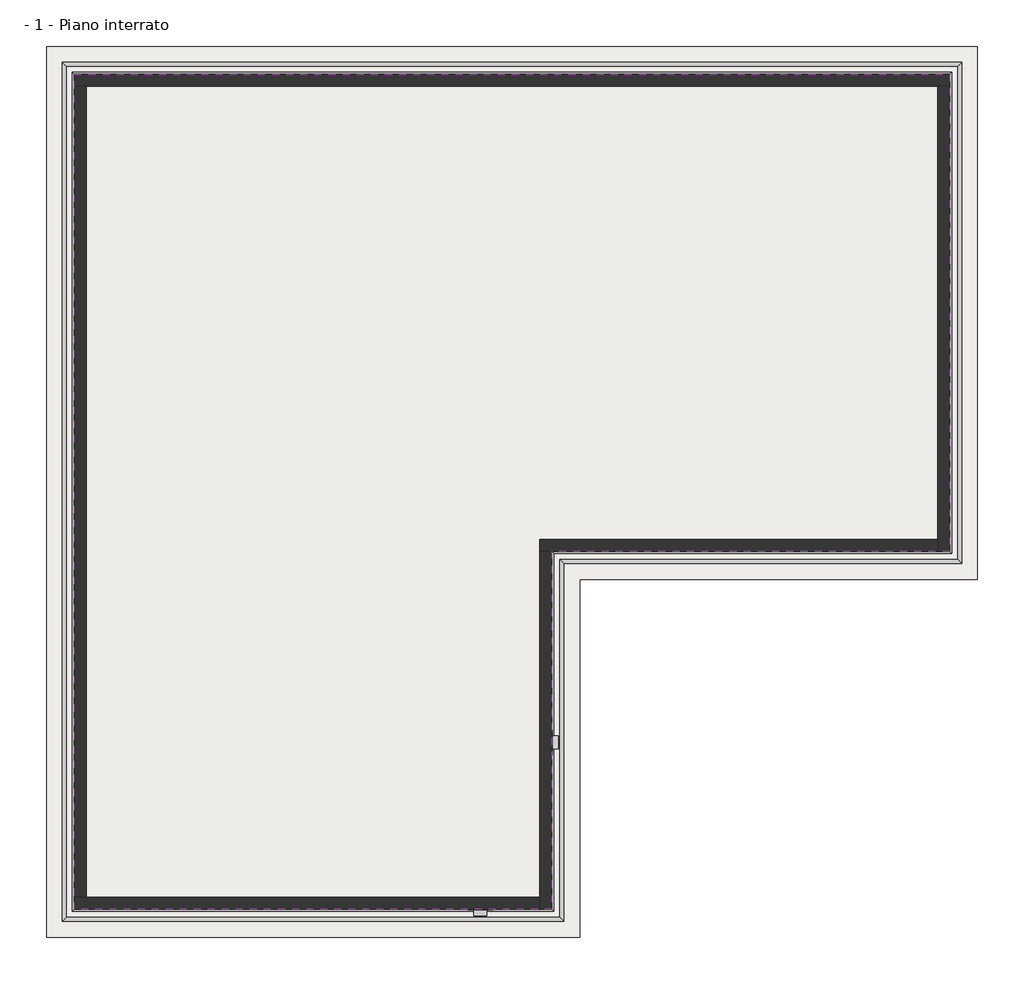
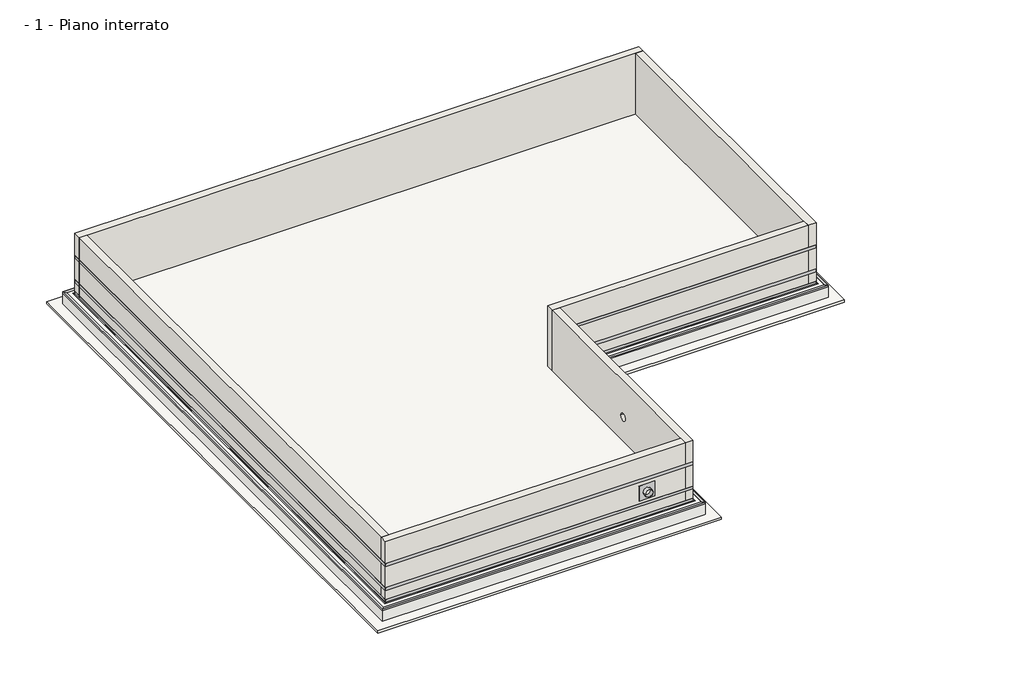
# One storey: 7 proxies, 6 walls, 2 slabs.
"""IFC4 building model written with IfcOpenShell, lengths in millimetres."""

from ifc_helpers import new_model, si_unit, frame, origin, place, context, project, spatial, polyline, circle_curve, outline, extrude, faceted_brep, transform, mapped, element, save
from ifc_brep_helpers import plane_surface, revolved_surface, advanced_brep
from components import generic_models_91e2fdae

model = new_model("IFC4")

# Units and contexts
model_context = context("Model", 3, world=origin())
ifc_project = project(units=[si_unit("LENGTHUNIT", "METRE", prefix="MILLI")], contexts=[model_context])

# Site, building, storey
site = spatial("IfcSite", under=ifc_project)
building = spatial("IfcBuilding", under=site)
storey = spatial("IfcBuildingStorey", under=building, Name="- 1 - Piano interrato", Elevation=-2500.0)

# Proxies
placement = place(None, origin())
element("IfcBuildingElementProxy", 1, Name="AMPHIBIA CORNER 90° VOLTECO", ObjectType="AMPHIBIA CORNER 90° VOLTECO", at=placement, inside=storey, context=model_context, shape_type="Brep", body=[
    faceted_brep([(14482.2184345, 11190.2450177, -2550.0), (14481.2184345, 11189.2450177, -2550.0), (-8118.7815655, 11189.2450177, -2550.0), (-8119.7815655, 11190.2450177, -2550.0), (14482.2184345, 11190.2450177, -2499.0), (-8119.7815655, 11190.2450177, -2499.0), (14381.2184345, 11089.2450177, -2499.0), (-8018.7815655, 11089.2450177, -2499.0), (14381.2184345, 11089.2450177, -2500.0), (-8018.7815655, 11089.2450177, -2500.0), (14481.2184345, 11189.2450177, -2500.0), (-8118.7815655, 11189.2450177, -2500.0), (-8118.7815655, -10410.7549823, -2550.0), (-8119.7815655, -10411.7549823, -2550.0), (-8119.7815655, -10411.7549823, -2499.0), (-8018.7815655, -10310.7549823, -2499.0), (-8018.7815655, -10310.7549823, -2500.0), (-8118.7815655, -10410.7549823, -2500.0), (4481.2184345, -10410.7549823, -2550.0), (4482.2184345, -10411.7549823, -2550.0), (4482.2184345, -10411.7549823, -2499.0), (4381.2184345, -10310.7549823, -2499.0), (4381.2184345, -10310.7549823, -2500.0), (4481.2184345, -10410.7549823, -2500.0), (4481.2184345, -1410.7549823, -2550.0), (4482.2184345, -1411.7549823, -2550.0), (4482.2184345, -1411.7549823, -2499.0), (4381.2184345, -1310.7549823, -2499.0), (4381.2184345, -1310.7549823, -2500.0), (4481.2184345, -1410.7549823, -2500.0), (14481.2184345, -1410.7549823, -2550.0), (14482.2184345, -1411.7549823, -2550.0), (14482.2184345, -1411.7549823, -2499.0), (14381.2184345, -1310.7549823, -2499.0), (14381.2184345, -1310.7549823, -2500.0), (14481.2184345, -1410.7549823, -2500.0)], [[[0, 1, 2, 3]], [[4, 0, 3, 5]], [[6, 4, 5, 7]], [[8, 6, 7, 9]], [[10, 8, 9, 11]], [[1, 10, 11, 2]], [[3, 2, 12, 13]], [[5, 3, 13, 14]], [[7, 5, 14, 15]], [[9, 7, 15, 16]], [[11, 9, 16, 17]], [[2, 11, 17, 12]], [[13, 12, 18, 19]], [[14, 13, 19, 20]], [[15, 14, 20, 21]], [[16, 15, 21, 22]], [[17, 16, 22, 23]], [[12, 17, 23, 18]], [[19, 18, 24, 25]], [[20, 19, 25, 26]], [[21, 20, 26, 27]], [[22, 21, 27, 28]], [[23, 22, 28, 29]], [[18, 23, 29, 24]], [[25, 24, 30, 31]], [[26, 25, 31, 32]], [[27, 26, 32, 33]], [[28, 27, 33, 34]], [[29, 28, 34, 35]], [[24, 29, 35, 30]], [[1, 0, 31, 30]], [[0, 4, 32, 31]], [[4, 6, 33, 32]], [[6, 8, 34, 33]], [[8, 10, 35, 34]], [[10, 1, 30, 35]]]),
])
element("IfcBuildingElementProxy", 2, Name="AKTI-VO 201 VOLTECO", ObjectType="AKTI-VO 201 VOLTECO", at=placement, inside=storey, context=model_context, shape_type="SweptSolid", body=[
    extrude(outline(polyline([(14205.1184345, 10913.1450177), (14206.1184345, 10914.1450177), (14206.1184345, -1135.6549823), (14205.1184345, -1134.6549823), (14205.1184345, 10913.1450177)])), frame((0.0, 0.0, -2500.0), z_axis=(0.0, 0.0, 1.0), x_axis=(1.0, 0.0, 0.0)), (0.0, 0.0, 1.0), 1.0),
    extrude(outline(polyline([(14205.1184345, -1134.6549823), (14206.1184345, -1135.6549823), (4206.1184345, -1135.6549823), (4205.1184345, -1134.6549823), (14205.1184345, -1134.6549823)])), frame((0.0, 0.0, -2500.0), z_axis=(0.0, 0.0, 1.0), x_axis=(1.0, 0.0, 0.0)), (0.0, 0.0, 1.0), 1.0),
    extrude(outline(polyline([(4205.1184345, -1134.6549823), (4206.1184345, -1135.6549823), (4206.1184345, -10135.6549823), (4205.1184345, -10134.6549823), (4205.1184345, -1134.6549823)])), frame((0.0, 0.0, -2500.0), z_axis=(0.0, 0.0, 1.0), x_axis=(1.0, 0.0, 0.0)), (0.0, 0.0, 1.0), 1.0),
    extrude(outline(polyline([(4205.1184345, -10134.6549823), (4206.1184345, -10135.6549823), (-7843.6815655, -10135.6549823), (-7842.6815655, -10134.6549823), (4205.1184345, -10134.6549823)])), frame((0.0, 0.0, -2500.0), z_axis=(0.0, 0.0, 1.0), x_axis=(1.0, 0.0, 0.0)), (0.0, 0.0, 1.0), 1.0),
    extrude(outline(polyline([(-7842.6815655, 10913.1450177), (-7843.6815655, 10914.1450177), (14206.1184345, 10914.1450177), (14205.1184345, 10913.1450177), (-7842.6815655, 10913.1450177)])), frame((0.0, 0.0, -2500.0), z_axis=(0.0, 0.0, 1.0), x_axis=(1.0, 0.0, 0.0)), (0.0, 0.0, 1.0), 1.0),
    extrude(outline(polyline([(-7842.6815655, -10134.6549823), (-7843.6815655, -10135.6549823), (-7843.6815655, 10914.1450177), (-7842.6815655, 10913.1450177), (-7842.6815655, -10134.6549823)])), frame((0.0, 0.0, -2500.0), z_axis=(0.0, 0.0, 1.0), x_axis=(1.0, 0.0, 0.0)), (0.0, 0.0, 1.0), 1.0),
])
element("IfcBuildingElementProxy", 3, Name="AMPHIBIA CORNER 270° VOLTECO", ObjectType="AMPHIBIA CORNER 270° VOLTECO", at=placement, inside=storey, context=model_context, shape_type="Brep", body=[
    faceted_brep([(14232.2184345, 10940.2450177, -2498.0), (14232.2184345, 10940.2450177, -2499.0), (14181.2184345, 10889.2450177, -2499.0), (14181.2184345, 10889.2450177, -2398.0), (14182.2184345, 10890.2450177, -2398.0), (14182.2184345, 10890.2450177, -2498.0), (14232.2184345, -1161.7549823, -2498.0), (14182.2184345, -1111.7549823, -2498.0), (14182.2184345, -1111.7549823, -2398.0), (14181.2184345, -1110.7549823, -2398.0), (14181.2184345, -1110.7549823, -2499.0), (14232.2184345, -1161.7549823, -2499.0)], [[[0, 1, 2, 3, 4, 5]], [[6, 7, 8, 9, 10, 11]], [[1, 0, 6, 11]], [[2, 1, 11, 10]], [[3, 2, 10, 9]], [[4, 3, 9, 8]], [[5, 4, 8, 7]], [[0, 5, 7, 6]]]),
    faceted_brep([(-7869.7815655, 10940.2450177, -2498.0), (-7869.7815655, 10940.2450177, -2499.0), (-7818.7815655, 10889.2450177, -2499.0), (-7818.7815655, 10889.2450177, -2398.0), (-7819.7815655, 10890.2450177, -2398.0), (-7819.7815655, 10890.2450177, -2498.0), (14232.2184345, 10940.2450177, -2498.0), (14182.2184345, 10890.2450177, -2498.0), (14182.2184345, 10890.2450177, -2398.0), (14181.2184345, 10889.2450177, -2398.0), (14181.2184345, 10889.2450177, -2499.0), (14232.2184345, 10940.2450177, -2499.0)], [[[0, 1, 2, 3, 4, 5]], [[6, 7, 8, 9, 10, 11]], [[1, 0, 6, 11]], [[2, 1, 11, 10]], [[3, 2, 10, 9]], [[4, 3, 9, 8]], [[5, 4, 8, 7]], [[0, 5, 7, 6]]]),
    faceted_brep([(-7869.7815655, -10161.7549823, -2498.0), (-7869.7815655, -10161.7549823, -2499.0), (-7818.7815655, -10110.7549823, -2499.0), (-7818.7815655, -10110.7549823, -2398.0), (-7819.7815655, -10111.7549823, -2398.0), (-7819.7815655, -10111.7549823, -2498.0), (-7869.7815655, 10940.2450177, -2498.0), (-7819.7815655, 10890.2450177, -2498.0), (-7819.7815655, 10890.2450177, -2398.0), (-7818.7815655, 10889.2450177, -2398.0), (-7818.7815655, 10889.2450177, -2499.0), (-7869.7815655, 10940.2450177, -2499.0)], [[[0, 1, 2, 3, 4, 5]], [[6, 7, 8, 9, 10, 11]], [[1, 0, 6, 11]], [[2, 1, 11, 10]], [[3, 2, 10, 9]], [[4, 3, 9, 8]], [[5, 4, 8, 7]], [[0, 5, 7, 6]]]),
    faceted_brep([(4232.2184345, -10161.7549823, -2498.0), (4232.2184345, -10161.7549823, -2499.0), (4181.2184345, -10110.7549823, -2499.0), (4181.2184345, -10110.7549823, -2398.0), (4182.2184345, -10111.7549823, -2398.0), (4182.2184345, -10111.7549823, -2498.0), (-7869.7815655, -10161.7549823, -2498.0), (-7819.7815655, -10111.7549823, -2498.0), (-7819.7815655, -10111.7549823, -2398.0), (-7818.7815655, -10110.7549823, -2398.0), (-7818.7815655, -10110.7549823, -2499.0), (-7869.7815655, -10161.7549823, -2499.0)], [[[0, 1, 2, 3, 4, 5]], [[6, 7, 8, 9, 10, 11]], [[1, 0, 6, 11]], [[2, 1, 11, 10]], [[3, 2, 10, 9]], [[4, 3, 9, 8]], [[5, 4, 8, 7]], [[0, 5, 7, 6]]]),
    faceted_brep([(4232.2184345, -1161.7549823, -2498.0), (4232.2184345, -1161.7549823, -2499.0), (4181.2184345, -1110.7549823, -2499.0), (4181.2184345, -1110.7549823, -2398.0), (4182.2184345, -1111.7549823, -2398.0), (4182.2184345, -1111.7549823, -2498.0), (4232.2184345, -10161.7549823, -2498.0), (4182.2184345, -10111.7549823, -2498.0), (4182.2184345, -10111.7549823, -2398.0), (4181.2184345, -10110.7549823, -2398.0), (4181.2184345, -10110.7549823, -2499.0), (4232.2184345, -10161.7549823, -2499.0)], [[[0, 1, 2, 3, 4, 5]], [[6, 7, 8, 9, 10, 11]], [[1, 0, 6, 11]], [[2, 1, 11, 10]], [[3, 2, 10, 9]], [[4, 3, 9, 8]], [[5, 4, 8, 7]], [[0, 5, 7, 6]]]),
    faceted_brep([(14232.2184345, -1161.7549823, -2498.0), (14232.2184345, -1161.7549823, -2499.0), (14181.2184345, -1110.7549823, -2499.0), (14181.2184345, -1110.7549823, -2398.0), (14182.2184345, -1111.7549823, -2398.0), (14182.2184345, -1111.7549823, -2498.0), (4232.2184345, -1161.7549823, -2498.0), (4182.2184345, -1111.7549823, -2498.0), (4182.2184345, -1111.7549823, -2398.0), (4181.2184345, -1110.7549823, -2398.0), (4181.2184345, -1110.7549823, -2499.0), (4232.2184345, -1161.7549823, -2499.0)], [[[0, 1, 2, 3, 4, 5]], [[6, 7, 8, 9, 10, 11]], [[1, 0, 6, 11]], [[2, 1, 11, 10]], [[3, 2, 10, 9]], [[4, 3, 9, 8]], [[5, 4, 8, 7]], [[0, 5, 7, 6]]]),
])
element("IfcBuildingElementProxy", 4, Name="AMPHIBIA 3000 STRIP", ObjectType="AMPHIBIA 3000 STRIP", at=placement, inside=storey, context=model_context, shape_type="SweptSolid", body=[
    extrude(outline(polyline([(4181.2184345, -10110.7549823), (4182.2184345, -10111.7549823), (-7819.7815655, -10111.7549823), (-7818.7815655, -10110.7549823), (4181.2184345, -10110.7549823)])), frame((0.0, 0.0, -1020.0), z_axis=(0.0, 0.0, 1.0), x_axis=(1.0, 0.0, 0.0)), (0.0, 0.0, 1.0), 120.0),
    extrude(outline(polyline([(4181.2184345, -1110.7549823), (4182.2184345, -1111.7549823), (4182.2184345, -10111.7549823), (4181.2184345, -10110.7549823), (4181.2184345, -1110.7549823)])), frame((0.0, 0.0, -1020.0), z_axis=(0.0, 0.0, 1.0), x_axis=(1.0, 0.0, 0.0)), (0.0, 0.0, 1.0), 120.0),
    extrude(outline(polyline([(14181.2184345, -1110.7549823), (14182.2184345, -1111.7549823), (4182.2184345, -1111.7549823), (4181.2184345, -1110.7549823), (14181.2184345, -1110.7549823)])), frame((0.0, 0.0, -1020.0), z_axis=(0.0, 0.0, 1.0), x_axis=(1.0, 0.0, 0.0)), (0.0, 0.0, 1.0), 120.0),
    extrude(outline(polyline([(14181.2184345, 10889.2450177), (14182.2184345, 10890.2450177), (14182.2184345, -1111.7549823), (14181.2184345, -1110.7549823), (14181.2184345, 10889.2450177)])), frame((0.0, 0.0, -1020.0), z_axis=(0.0, 0.0, 1.0), x_axis=(1.0, 0.0, 0.0)), (0.0, 0.0, 1.0), 120.0),
    extrude(outline(polyline([(-7818.7815655, 10889.2450177), (-7819.7815655, 10890.2450177), (14182.2184345, 10890.2450177), (14181.2184345, 10889.2450177), (-7818.7815655, 10889.2450177)])), frame((0.0, 0.0, -1020.0), z_axis=(0.0, 0.0, 1.0), x_axis=(1.0, 0.0, 0.0)), (0.0, 0.0, 1.0), 120.0),
    extrude(outline(polyline([(-7818.7815655, -10110.7549823), (-7819.7815655, -10111.7549823), (-7819.7815655, 10890.2450177), (-7818.7815655, 10889.2450177), (-7818.7815655, -10110.7549823)])), frame((0.0, 0.0, -1020.0), z_axis=(0.0, 0.0, 1.0), x_axis=(1.0, 0.0, 0.0)), (0.0, 0.0, 1.0), 120.0),
])
element("IfcBuildingElementProxy", 5, Name="AMPHIBIA 3000 STRIP", ObjectType="AMPHIBIA 3000 STRIP", at=placement, inside=storey, context=model_context, shape_type="SweptSolid", body=[
    extrude(outline(polyline([(4181.2184345, -10110.7549823), (4182.2184345, -10111.7549823), (-7819.7815655, -10111.7549823), (-7818.7815655, -10110.7549823), (4181.2184345, -10110.7549823)])), frame((0.0, 0.0, -2020.0), z_axis=(0.0, 0.0, 1.0), x_axis=(1.0, 0.0, 0.0)), (0.0, 0.0, 1.0), 120.0),
    extrude(outline(polyline([(4181.2184345, -1110.7549823), (4182.2184345, -1111.7549823), (4182.2184345, -10111.7549823), (4181.2184345, -10110.7549823), (4181.2184345, -1110.7549823)])), frame((0.0, 0.0, -2020.0), z_axis=(0.0, 0.0, 1.0), x_axis=(1.0, 0.0, 0.0)), (0.0, 0.0, 1.0), 120.0),
    extrude(outline(polyline([(14181.2184345, -1110.7549823), (14182.2184345, -1111.7549823), (4182.2184345, -1111.7549823), (4181.2184345, -1110.7549823), (14181.2184345, -1110.7549823)])), frame((0.0, 0.0, -2020.0), z_axis=(0.0, 0.0, 1.0), x_axis=(1.0, 0.0, 0.0)), (0.0, 0.0, 1.0), 120.0),
    extrude(outline(polyline([(14181.2184345, 10889.2450177), (14182.2184345, 10890.2450177), (14182.2184345, -1111.7549823), (14181.2184345, -1110.7549823), (14181.2184345, 10889.2450177)])), frame((0.0, 0.0, -2020.0), z_axis=(0.0, 0.0, 1.0), x_axis=(1.0, 0.0, 0.0)), (0.0, 0.0, 1.0), 120.0),
    extrude(outline(polyline([(-7818.7815655, 10889.2450177), (-7819.7815655, 10890.2450177), (14182.2184345, 10890.2450177), (14181.2184345, 10889.2450177), (-7818.7815655, 10889.2450177)])), frame((0.0, 0.0, -2020.0), z_axis=(0.0, 0.0, 1.0), x_axis=(1.0, 0.0, 0.0)), (0.0, 0.0, 1.0), 120.0),
    extrude(outline(polyline([(-7818.7815655, -10110.7549823), (-7819.7815655, -10111.7549823), (-7819.7815655, 10890.2450177), (-7818.7815655, 10889.2450177), (-7818.7815655, -10110.7549823)])), frame((0.0, 0.0, -2020.0), z_axis=(0.0, 0.0, 1.0), x_axis=(1.0, 0.0, 0.0)), (0.0, 0.0, 1.0), 120.0),
])
generic_models_shape = generic_models_91e2fdae(model_context)
element("IfcBuildingElementProxy", 6, Name="ITA-VOLTECO Amphibia Tubo : ITA-VOLTECO Amphibia Tubo", ObjectType="ITA-VOLTECO Amphibia Tubo : ITA-VOLTECO Amphibia Tubo", at=placement, inside=storey, context=model_context, shape_type="MappedRepresentation", body=[
    mapped(generic_models_shape, transform((4181.2184345, -5910.7549823, -1500.3520841), x_axis=(0.0, 1.0, 0.0), y_axis=(0.0, 0.0, 1.0), z_axis=(1.0, 0.0, 0.0))),
])
element("IfcBuildingElementProxy", 7, Name="ITA-VOLTECO Amphibia Tubo : ITA-VOLTECO Amphibia Tubo", ObjectType="ITA-VOLTECO Amphibia Tubo : ITA-VOLTECO Amphibia Tubo", at=placement, inside=storey, context=model_context, shape_type="MappedRepresentation", body=[
    mapped(generic_models_shape, transform((2381.2184345, -10110.7549823, -1471.2981482), x_axis=(1.0, 0.0, 0.0), y_axis=(0.0, 0.0, 1.0), z_axis=(0.0, -1.0, 0.0))),
])

# Slabs
element("IfcSlab", 8, ObjectType="Magrone - 10 cm", at=placement, inside=storey, context=model_context, shape_type="SweptSolid", body=[
    extrude(outline(polyline([(14881.2184345, 11589.2450177), (14881.2184345, -1810.7549823), (4881.2184345, -1810.7549823), (4881.2184345, -10810.7549823), (-8518.7815655, -10810.7549823), (-8518.7815655, 11589.2450177), (14881.2184345, 11589.2450177)])), frame((0.0, 0.0, -3100.0), z_axis=(0.0, 0.0, 1.0), x_axis=(1.0, 0.0, 0.0)), (0.0, 0.0, 1.0), 100.0),
])
element("IfcSlab", 9, ObjectType="Platea - 50 cm", at=placement, inside=storey, context=model_context, shape_type="Brep", body=[
    faceted_brep([(14481.2184345, 11189.2450177, -3000.0), (14481.2184345, -1410.7549823, -3000.0), (4481.2184345, -1410.7549823, -3000.0), (4481.2184345, -10410.7549823, -3000.0), (-8118.7815655, -10410.7549823, -3000.0), (-8118.7815655, 11189.2450177, -3000.0), (14481.2184345, 11189.2450177, -2500.0), (-8118.7815655, 11189.2450177, -2500.0), (-8118.7815655, -10410.7549823, -2500.0), (4481.2184345, -10410.7549823, -2500.0), (4481.2184345, -1410.7549823, -2500.0), (14481.2184345, -1410.7549823, -2500.0), (14481.2184345, 11189.2450177, -2550.0), (14481.2184345, -1410.7549823, -2550.0), (4481.2184345, -1410.7549823, -2550.0), (4481.2184345, -10410.7549823, -2550.0), (-8118.7815655, -10410.7549823, -2550.0), (-8118.7815655, 11189.2450177, -2550.0)], [[[0, 1, 2, 3, 4, 5]], [[6, 7, 8, 9, 10, 11]], [[1, 0, 12, 6, 11, 13]], [[2, 1, 13, 11, 10, 14]], [[3, 2, 14, 10, 9, 15]], [[4, 3, 15, 9, 8, 16]], [[5, 4, 16, 8, 7, 17]], [[0, 5, 17, 7, 6, 12]]]),
])

# Walls
element("IfcWall", 10, ObjectType="Fondazione - 30 cm", at=placement, inside=storey, context=model_context, shape_type="Brep", body=[
    faceted_brep([(14181.2184345, 10589.2450177, 0.0), (13881.2184345, 10589.2450177, 0.0), (-7518.7815655, 10589.2450177, 0.0), (-7818.7815655, 10589.2450177, 0.0), (-7818.7815655, 10589.2450177, -900.0), (-7818.7815655, 10589.2450177, -1020.0), (-7818.7815655, 10589.2450177, -1900.0), (-7818.7815655, 10589.2450177, -2020.0), (-7818.7815655, 10589.2450177, -2398.0), (-7818.7815655, 10589.2450177, -2499.0), (-7818.7815655, 10589.2450177, -2500.0), (-7518.7815655, 10589.2450177, -2500.0), (13881.2184345, 10589.2450177, -2500.0), (14181.2184345, 10589.2450177, -2500.0), (14181.2184345, 10589.2450177, -2499.0), (14181.2184345, 10589.2450177, -2398.0), (14181.2184345, 10589.2450177, -2020.0), (14181.2184345, 10589.2450177, -1900.0), (14181.2184345, 10589.2450177, -1020.0), (14181.2184345, 10589.2450177, -900.0), (-7818.7815655, 10889.2450177, 0.0), (14181.2184345, 10889.2450177, 0.0), (14181.2184345, 10889.2450177, -900.0), (14181.2184345, 10889.2450177, -1020.0), (14181.2184345, 10889.2450177, -1900.0), (14181.2184345, 10889.2450177, -2020.0), (14181.2184345, 10889.2450177, -2398.0), (14181.2184345, 10889.2450177, -2499.0), (14181.2184345, 10889.2450177, -2500.0), (-7818.7815655, 10889.2450177, -2500.0), (-7818.7815655, 10889.2450177, -2499.0), (-7818.7815655, 10889.2450177, -2398.0), (-7818.7815655, 10889.2450177, -2020.0), (-7818.7815655, 10889.2450177, -1900.0), (-7818.7815655, 10889.2450177, -1020.0), (-7818.7815655, 10889.2450177, -900.0)], [[[0, 1, 2, 3, 4, 5, 6, 7, 8, 9, 10, 11, 12, 13, 14, 15, 16, 17, 18, 19]], [[20, 21, 22, 23, 24, 25, 26, 27, 28, 29, 30, 31, 32, 33, 34, 35]], [[3, 2, 1, 0, 21, 20]], [[21, 0, 19, 18, 17, 16, 15, 14, 13, 28, 27, 26, 25, 24, 23, 22]], [[3, 20, 35, 34, 33, 32, 31, 30, 29, 10, 9, 8, 7, 6, 5, 4]], [[13, 12, 11, 10, 29, 28]]]),
])
element("IfcWall", 11, ObjectType="Fondazione - 30 cm", at=placement, inside=storey, context=model_context, shape_type="Brep", body=[
    faceted_brep([(13881.2184345, -1110.7549823, 0.0), (13881.2184345, -810.7549823, 0.0), (13881.2184345, 10589.2450177, 0.0), (13881.2184345, 10589.2450177, -2500.0), (13881.2184345, -810.7549823, -2500.0), (13881.2184345, -1110.7549823, -2500.0), (13881.2184345, -1110.7549823, -2499.0), (13881.2184345, -1110.7549823, -2398.0), (13881.2184345, -1110.7549823, -2020.0), (13881.2184345, -1110.7549823, -1900.0), (13881.2184345, -1110.7549823, -1020.0), (13881.2184345, -1110.7549823, -900.0), (14181.2184345, 10589.2450177, 0.0), (14181.2184345, -1110.7549823, 0.0), (14181.2184345, -1110.7549823, -900.0), (14181.2184345, -1110.7549823, -1020.0), (14181.2184345, -1110.7549823, -1900.0), (14181.2184345, -1110.7549823, -2020.0), (14181.2184345, -1110.7549823, -2398.0), (14181.2184345, -1110.7549823, -2499.0), (14181.2184345, -1110.7549823, -2500.0), (14181.2184345, 10589.2450177, -2500.0), (14181.2184345, 10589.2450177, -2499.0), (14181.2184345, 10589.2450177, -2398.0), (14181.2184345, 10589.2450177, -2020.0), (14181.2184345, 10589.2450177, -1900.0), (14181.2184345, 10589.2450177, -1020.0), (14181.2184345, 10589.2450177, -900.0)], [[[0, 1, 2, 3, 4, 5, 6, 7, 8, 9, 10, 11]], [[12, 13, 14, 15, 16, 17, 18, 19, 20, 21, 22, 23, 24, 25, 26, 27]], [[2, 1, 0, 13, 12]], [[3, 2, 12, 27, 26, 25, 24, 23, 22, 21]], [[13, 0, 11, 10, 9, 8, 7, 6, 5, 20, 19, 18, 17, 16, 15, 14]], [[5, 4, 3, 21, 20]]]),
])
element("IfcWall", 12, ObjectType="Fondazione - 30 cm", at=placement, inside=storey, context=model_context, shape_type="Brep", body=[
    faceted_brep([(3881.2184345, -810.7549823, 0.0), (13881.2184345, -810.7549823, 0.0), (13881.2184345, -810.7549823, -2500.0), (3881.2184345, -810.7549823, -2500.0), (13881.2184345, -1110.7549823, 0.0), (4181.2184345, -1110.7549823, 0.0), (3881.2184345, -1110.7549823, 0.0), (3881.2184345, -1110.7549823, -2500.0), (4181.2184345, -1110.7549823, -2500.0), (13881.2184345, -1110.7549823, -2500.0), (13881.2184345, -1110.7549823, -2499.0), (13881.2184345, -1110.7549823, -2398.0), (13881.2184345, -1110.7549823, -1620.0), (13881.2184345, -1110.7549823, -1500.0), (13881.2184345, -1110.7549823, -620.0), (13881.2184345, -1110.7549823, -500.0)], [[[0, 1, 2, 3]], [[4, 5, 6, 7, 8, 9, 10, 11, 12, 13, 14, 15]], [[1, 0, 6, 5, 4]], [[2, 1, 4, 15, 14, 13, 12, 11, 10, 9]], [[0, 3, 7, 6]], [[3, 2, 9, 8, 7]]]),
])
element("IfcWall", 13, ObjectType="Fondazione - 30 cm", at=placement, inside=storey, context=model_context, shape_type="AdvancedBrep", body=[
    advanced_brep(
    [(3881.2184345, -10110.7549823, 0.0), (3881.2184345, -9810.7549823, 0.0), (3881.2184345, -1110.7549823, 0.0), (3881.2184345, -1110.7549823, -2500.0), (3881.2184345, -9810.7549823, -2500.0), (3881.2184345, -10110.7549823, -2500.0), (3881.2184345, -10110.7549823, -2499.0), (3881.2184345, -10110.7549823, -2398.0), (3881.2184345, -10110.7549823, -2020.0), (3881.2184345, -10110.7549823, -1900.0), (3881.2184345, -10110.7549823, -1020.0), (3881.2184345, -10110.7549823, -900.0), (3881.2184345, -6060.7549823, -1500.3520841), (3881.2184345, -5760.7549823, -1500.3520841), (4181.2184345, -1110.7549823, 0.0), (4181.2184345, -10110.7549823, 0.0), (4181.2184345, -10110.7549823, -900.0), (4181.2184345, -10110.7549823, -1020.0), (4181.2184345, -10110.7549823, -1900.0), (4181.2184345, -10110.7549823, -2020.0), (4181.2184345, -10110.7549823, -2398.0), (4181.2184345, -10110.7549823, -2499.0), (4181.2184345, -10110.7549823, -2500.0), (4181.2184345, -1110.7549823, -2500.0), (4181.2184345, -1110.7549823, -2499.0), (4181.2184345, -1110.7549823, -2398.0), (4181.2184345, -1110.7549823, -2020.0), (4181.2184345, -1110.7549823, -1900.0), (4181.2184345, -1110.7549823, -1020.0), (4181.2184345, -1110.7549823, -900.0), (4181.2184345, -5760.7549823, -1500.3520841), (4181.2184345, -6060.7549823, -1500.3520841)],
    [
        (0, 1),
        (1, 2),
        (2, 3),
        (3, 4),
        (4, 5),
        (5, 6),
        (6, 7),
        (7, 8),
        (8, 9),
        (9, 10),
        (10, 11),
        (11, 0),
        (12, 13, circle_curve(frame((3881.2184345, -5910.7549823, -1500.3520841), z_axis=(1.0, 0.0, 0.0), x_axis=(0.0, 1.0, 0.0)), 150.0)),
        (13, 12, circle_curve(frame((3881.2184345, -5910.7549823, -1500.3520841), z_axis=(1.0, 0.0, 0.0), x_axis=(0.0, 1.0, 0.0)), 150.0)),
        (14, 15),
        (15, 16),
        (16, 17),
        (17, 18),
        (18, 19),
        (19, 20),
        (20, 21),
        (21, 22),
        (22, 23),
        (23, 24),
        (24, 25),
        (25, 26),
        (26, 27),
        (27, 28),
        (28, 29),
        (29, 14),
        (30, 31, circle_curve(frame((4181.2184345, -5910.7549823, -1500.3520841), z_axis=(-1.0, 0.0, 0.0), x_axis=(0.0, 1.0, 0.0)), 150.0)),
        (31, 30, circle_curve(frame((4181.2184345, -5910.7549823, -1500.3520841), z_axis=(-1.0, 0.0, 0.0), x_axis=(0.0, 1.0, 0.0)), 150.0)),
        (0, 15),
        (14, 2),
        (23, 3),
        (5, 22),
        (12, 31),
        (30, 13),
    ],
    [
        plane_surface(frame((3881.2184345, -1110.7549823, -2500.0), z_axis=(-1.0, 0.0, 0.0), x_axis=(0.0, -1.0, 0.0))),
        plane_surface(frame((4181.2184345, -1110.7549823, -2500.0), z_axis=(1.0, 0.0, 0.0), x_axis=(0.0, 1.0, 0.0))),
        plane_surface(frame((3881.2184345, -9960.7549823, 0.0), z_axis=(0.0, 0.0, 1.0), x_axis=(1.0, 0.0, 0.0))),
        plane_surface(frame((14181.2184345, -1110.7549823, -2500.0), z_axis=(0.0, 1.0, 0.0), x_axis=(1.0, 0.0, 0.0))),
        plane_surface(frame((4181.2184345, -10110.7549823, -2500.0), z_axis=(0.0, -1.0, 0.0), x_axis=(1.0, 0.0, 0.0))),
        plane_surface(frame((14481.2184345, 10889.2450177, -2500.0), z_axis=(0.0, 0.0, -1.0), x_axis=(0.0, 1.0, 0.0))),
        revolved_surface(polyline([(4181.2184345, -5760.7549823, -1500.3520841), (3881.2184345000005, -5760.7549823, -1500.3520841)]), (1588.8547464, -5910.7549823, -1500.3520841), (1.0, 0.0, 0.0)),
    ],
    [
        (0, [[1, 2, 3, 4, 5, 6, 7, 8, 9, 10, 11, 12], [13, 14]]),
        (1, [[15, 16, 17, 18, 19, 20, 21, 22, 23, 24, 25, 26, 27, 28, 29, 30], [31, 32]]),
        (2, [[-2, -1, 33, -15, 34]]),
        (3, [[-3, -34, -30, -29, -28, -27, -26, -25, -24, 35]]),
        (4, [[-33, -12, -11, -10, -9, -8, -7, -6, 36, -22, -21, -20, -19, -18, -17, -16]]),
        (5, [[-5, -4, -35, -23, -36]]),
        (6, [[37, -31, 38, -13]]),
        (6, [[-37, -14, -38, -32]]),
    ],
),
])
element("IfcWall", 14, ObjectType="Fondazione - 30 cm", at=placement, inside=storey, context=model_context, shape_type="AdvancedBrep", body=[
    advanced_brep(
    [(-7818.7815655, -9810.7549823, 0.0), (-7518.7815655, -9810.7549823, 0.0), (3881.2184345, -9810.7549823, 0.0), (3881.2184345, -9810.7549823, -2500.0), (-7518.7815655, -9810.7549823, -2500.0), (-7818.7815655, -9810.7549823, -2500.0), (-7818.7815655, -9810.7549823, -2499.0), (-7818.7815655, -9810.7549823, -2398.0), (-7818.7815655, -9810.7549823, -2020.0), (-7818.7815655, -9810.7549823, -1900.0), (-7818.7815655, -9810.7549823, -1020.0), (-7818.7815655, -9810.7549823, -900.0), (2231.2184345, -9810.7549823, -1471.2981482), (2531.2184345, -9810.7549823, -1471.2981482), (3881.2184345, -10110.7549823, 0.0), (-7818.7815655, -10110.7549823, 0.0), (-7818.7815655, -10110.7549823, -900.0), (-7818.7815655, -10110.7549823, -1020.0), (-7818.7815655, -10110.7549823, -1900.0), (-7818.7815655, -10110.7549823, -2020.0), (-7818.7815655, -10110.7549823, -2398.0), (-7818.7815655, -10110.7549823, -2499.0), (-7818.7815655, -10110.7549823, -2500.0), (3881.2184345, -10110.7549823, -2500.0), (3881.2184345, -10110.7549823, -2499.0), (3881.2184345, -10110.7549823, -2398.0), (3881.2184345, -10110.7549823, -2020.0), (3881.2184345, -10110.7549823, -1900.0), (3881.2184345, -10110.7549823, -1020.0), (3881.2184345, -10110.7549823, -900.0), (2531.2184345, -10110.7549823, -1471.2981482), (2231.2184345, -10110.7549823, -1471.2981482)],
    [
        (0, 1),
        (1, 2),
        (2, 3),
        (3, 4),
        (4, 5),
        (5, 6),
        (6, 7),
        (7, 8),
        (8, 9),
        (9, 10),
        (10, 11),
        (11, 0),
        (12, 13, circle_curve(frame((2381.2184345, -9810.7549823, -1471.2981482), z_axis=(0.0, -1.0, 0.0), x_axis=(1.0, 0.0, 0.0)), 150.0)),
        (13, 12, circle_curve(frame((2381.2184345, -9810.7549823, -1471.2981482), z_axis=(0.0, -1.0, 0.0), x_axis=(1.0, 0.0, 0.0)), 150.0)),
        (14, 15),
        (15, 16),
        (16, 17),
        (17, 18),
        (18, 19),
        (19, 20),
        (20, 21),
        (21, 22),
        (22, 23),
        (23, 24),
        (24, 25),
        (25, 26),
        (26, 27),
        (27, 28),
        (28, 29),
        (29, 14),
        (30, 31, circle_curve(frame((2381.2184345, -10110.7549823, -1471.2981482), z_axis=(0.0, 1.0, 0.0), x_axis=(1.0, 0.0, 0.0)), 150.0)),
        (31, 30, circle_curve(frame((2381.2184345, -10110.7549823, -1471.2981482), z_axis=(0.0, 1.0, 0.0), x_axis=(1.0, 0.0, 0.0)), 150.0)),
        (0, 15),
        (14, 2),
        (23, 3),
        (5, 22),
        (12, 31),
        (30, 13),
    ],
    [
        plane_surface(frame((4181.2184345, -9810.7549823, -2500.0), z_axis=(0.0, 1.0, 0.0), x_axis=(-1.0, 0.0, 0.0))),
        plane_surface(frame((4181.2184345, -10110.7549823, -2500.0), z_axis=(0.0, -1.0, 0.0), x_axis=(1.0, 0.0, 0.0))),
        plane_surface(frame((-7668.7815655, -9810.7549823, 0.0), z_axis=(0.0, 0.0, 1.0), x_axis=(0.0, -1.0, 0.0))),
        plane_surface(frame((3881.2184345, -1110.7549823, -2500.0), z_axis=(1.0, 0.0, 0.0), x_axis=(0.0, -1.0, 0.0))),
        plane_surface(frame((-7818.7815655, -10110.7549823, -2500.0), z_axis=(-1.0, 0.0, 0.0), x_axis=(0.0, -1.0, 0.0))),
        plane_surface(frame((14481.2184345, 10889.2450177, -2500.0), z_axis=(0.0, 0.0, -1.0), x_axis=(0.0, 1.0, 0.0))),
        revolved_surface(polyline([(2531.2184345, -10110.7549823, -1471.2981482), (2531.2184345, -9810.7549823, -1471.2981482)]), (2381.2184345, -7518.3912941, -1471.2981482), (0.0, -1.0, 0.0)),
    ],
    [
        (0, [[1, 2, 3, 4, 5, 6, 7, 8, 9, 10, 11, 12], [13, 14]]),
        (1, [[15, 16, 17, 18, 19, 20, 21, 22, 23, 24, 25, 26, 27, 28, 29, 30], [31, 32]]),
        (2, [[-2, -1, 33, -15, 34]]),
        (3, [[-3, -34, -30, -29, -28, -27, -26, -25, -24, 35]]),
        (4, [[-33, -12, -11, -10, -9, -8, -7, -6, 36, -22, -21, -20, -19, -18, -17, -16]]),
        (5, [[-5, -4, -35, -23, -36]]),
        (6, [[37, -31, 38, -13]]),
        (6, [[-37, -14, -38, -32]]),
    ],
),
])
element("IfcWall", 15, ObjectType="Fondazione - 30 cm", at=placement, inside=storey, context=model_context, shape_type="Brep", body=[
    faceted_brep([(-7518.7815655, 10589.2450177, 0.0), (-7518.7815655, -9810.7549823, 0.0), (-7518.7815655, -9810.7549823, -2500.0), (-7518.7815655, 10589.2450177, -2500.0), (-7818.7815655, -9810.7549823, 0.0), (-7818.7815655, 10589.2450177, 0.0), (-7818.7815655, 10589.2450177, -500.0), (-7818.7815655, 10589.2450177, -620.0), (-7818.7815655, 10589.2450177, -1500.0), (-7818.7815655, 10589.2450177, -1620.0), (-7818.7815655, 10589.2450177, -2398.0), (-7818.7815655, 10589.2450177, -2499.0), (-7818.7815655, 10589.2450177, -2500.0), (-7818.7815655, -9810.7549823, -2500.0), (-7818.7815655, -9810.7549823, -2499.0), (-7818.7815655, -9810.7549823, -2398.0), (-7818.7815655, -9810.7549823, -1620.0), (-7818.7815655, -9810.7549823, -1500.0), (-7818.7815655, -9810.7549823, -620.0), (-7818.7815655, -9810.7549823, -500.0)], [[[0, 1, 2, 3]], [[4, 5, 6, 7, 8, 9, 10, 11, 12, 13, 14, 15, 16, 17, 18, 19]], [[1, 0, 5, 4]], [[0, 3, 12, 11, 10, 9, 8, 7, 6, 5]], [[2, 1, 4, 19, 18, 17, 16, 15, 14, 13]], [[3, 2, 13, 12]]]),
])

save(model, "model.ifc")
